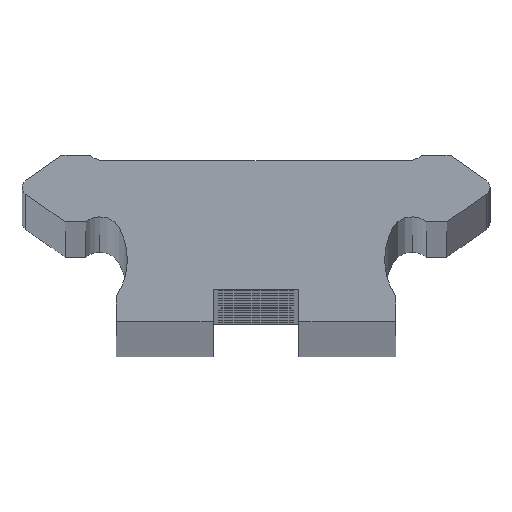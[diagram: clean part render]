
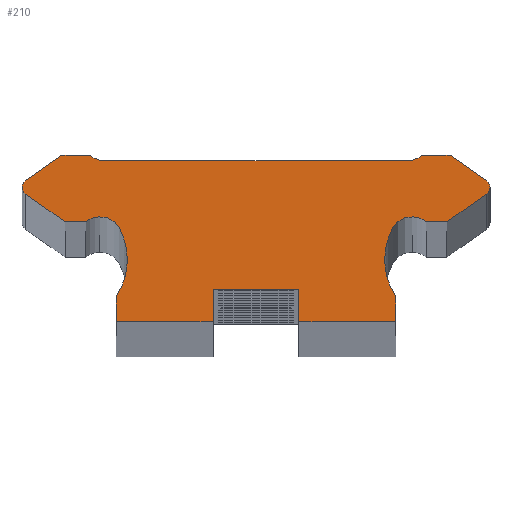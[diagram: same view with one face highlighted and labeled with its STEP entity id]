
A CAD part, top view. The second image highlights one B-rep face of the part: STEP entity #210.
In plain terms, the highlighted planar face has unit normal (0, 0, 1).
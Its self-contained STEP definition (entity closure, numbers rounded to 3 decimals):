
#210=ADVANCED_FACE('',(#546),#547,.T.);
#546=FACE_OUTER_BOUND('',#883,.T.);
#547=PLANE('',#884);
#883=EDGE_LOOP('',(#1916,#1917,#1918,#1919,#1920,#1921,#1922,#1923,#1924,#1925,#1926,#1927,#1928,#1929,#1930,#1931,#1932,#1933,#1934,#1935,#1936,#1937,#1938,#1939,#1940,#1941,#1942,#1943,#1944,#1945));
#884=AXIS2_PLACEMENT_3D('',#1946,#1947,#1948);
#1916=ORIENTED_EDGE('',*,*,#2250,.F.);
#1917=ORIENTED_EDGE('',*,*,#2322,.F.);
#1918=ORIENTED_EDGE('',*,*,#2319,.F.);
#1919=ORIENTED_EDGE('',*,*,#1985,.F.);
#1920=ORIENTED_EDGE('',*,*,#2317,.F.);
#1921=ORIENTED_EDGE('',*,*,#2314,.F.);
#1922=ORIENTED_EDGE('',*,*,#2311,.F.);
#1923=ORIENTED_EDGE('',*,*,#2308,.F.);
#1924=ORIENTED_EDGE('',*,*,#2305,.F.);
#1925=ORIENTED_EDGE('',*,*,#2302,.F.);
#1926=ORIENTED_EDGE('',*,*,#2299,.F.);
#1927=ORIENTED_EDGE('',*,*,#1987,.F.);
#1928=ORIENTED_EDGE('',*,*,#2298,.F.);
#1929=ORIENTED_EDGE('',*,*,#2294,.F.);
#1930=ORIENTED_EDGE('',*,*,#2291,.F.);
#1931=ORIENTED_EDGE('',*,*,#2288,.F.);
#1932=ORIENTED_EDGE('',*,*,#2285,.F.);
#1933=ORIENTED_EDGE('',*,*,#2282,.F.);
#1934=ORIENTED_EDGE('',*,*,#1993,.F.);
#1935=ORIENTED_EDGE('',*,*,#2280,.F.);
#1936=ORIENTED_EDGE('',*,*,#2277,.F.);
#1937=ORIENTED_EDGE('',*,*,#2274,.F.);
#1938=ORIENTED_EDGE('',*,*,#2271,.F.);
#1939=ORIENTED_EDGE('',*,*,#2268,.F.);
#1940=ORIENTED_EDGE('',*,*,#2265,.F.);
#1941=ORIENTED_EDGE('',*,*,#2262,.F.);
#1942=ORIENTED_EDGE('',*,*,#1995,.F.);
#1943=ORIENTED_EDGE('',*,*,#2261,.F.);
#1944=ORIENTED_EDGE('',*,*,#2257,.F.);
#1945=ORIENTED_EDGE('',*,*,#2254,.F.);
#1946=CARTESIAN_POINT('',(0.,8.63,1886.0));
#1947=DIRECTION('',(0.0,0.0,1.0));
#1948=DIRECTION('',(1.0,0.0,0.0));
#1985=EDGE_CURVE('',#2329,#2325,#2331,.T.);
#1987=EDGE_CURVE('',#2332,#2335,#2336,.T.);
#1993=EDGE_CURVE('',#2345,#2341,#2347,.T.);
#1995=EDGE_CURVE('',#2348,#2351,#2352,.T.);
#2250=EDGE_CURVE('',#2776,#2777,#2778,.T.);
#2254=EDGE_CURVE('',#2777,#2784,#2785,.T.);
#2257=EDGE_CURVE('',#2784,#2789,#2790,.T.);
#2261=EDGE_CURVE('',#2789,#2348,#2795,.T.);
#2262=EDGE_CURVE('',#2351,#2796,#2797,.T.);
#2265=EDGE_CURVE('',#2796,#2801,#2802,.T.);
#2268=EDGE_CURVE('',#2801,#2806,#2807,.T.);
#2271=EDGE_CURVE('',#2806,#2811,#2812,.T.);
#2274=EDGE_CURVE('',#2811,#2816,#2817,.T.);
#2277=EDGE_CURVE('',#2816,#2821,#2822,.T.);
#2280=EDGE_CURVE('',#2821,#2345,#2826,.T.);
#2282=EDGE_CURVE('',#2341,#2828,#2829,.T.);
#2285=EDGE_CURVE('',#2828,#2833,#2834,.T.);
#2288=EDGE_CURVE('',#2833,#2838,#2839,.T.);
#2291=EDGE_CURVE('',#2838,#2843,#2844,.T.);
#2294=EDGE_CURVE('',#2843,#2848,#2849,.T.);
#2298=EDGE_CURVE('',#2848,#2332,#2854,.T.);
#2299=EDGE_CURVE('',#2335,#2855,#2856,.T.);
#2302=EDGE_CURVE('',#2855,#2860,#2861,.T.);
#2305=EDGE_CURVE('',#2860,#2865,#2866,.T.);
#2308=EDGE_CURVE('',#2865,#2870,#2871,.T.);
#2311=EDGE_CURVE('',#2870,#2875,#2876,.T.);
#2314=EDGE_CURVE('',#2875,#2880,#2881,.T.);
#2317=EDGE_CURVE('',#2880,#2329,#2885,.T.);
#2319=EDGE_CURVE('',#2325,#2887,#2888,.T.);
#2322=EDGE_CURVE('',#2887,#2776,#2892,.T.);
#2325=VERTEX_POINT('',#2895);
#2329=VERTEX_POINT('',#2900);
#2331=CIRCLE('',#2903,0.76);
#2332=VERTEX_POINT('',#2904);
#2335=VERTEX_POINT('',#2908);
#2336=CIRCLE('',#2909,0.76);
#2341=VERTEX_POINT('',#2915);
#2345=VERTEX_POINT('',#2920);
#2347=CIRCLE('',#2923,6.105);
#2348=VERTEX_POINT('',#2924);
#2351=VERTEX_POINT('',#2928);
#2352=CIRCLE('',#2929,6.105);
#2776=VERTEX_POINT('',#3438);
#2777=VERTEX_POINT('',#3439);
#2778=LINE('',#3440,#3441);
#2784=VERTEX_POINT('',#3450);
#2785=CIRCLE('',#3451,2.275);
#2789=VERTEX_POINT('',#3456);
#2790=CIRCLE('',#3457,2.0);
#2795=CIRCLE('',#3463,6.105);
#2796=VERTEX_POINT('',#3464);
#2797=LINE('',#3465,#3466);
#2801=VERTEX_POINT('',#3472);
#2802=LINE('',#3473,#3474);
#2806=VERTEX_POINT('',#3480);
#2807=LINE('',#3481,#3482);
#2811=VERTEX_POINT('',#3488);
#2812=LINE('',#3489,#3490);
#2816=VERTEX_POINT('',#3496);
#2817=LINE('',#3497,#3498);
#2821=VERTEX_POINT('',#3504);
#2822=LINE('',#3505,#3506);
#2826=LINE('',#3512,#3513);
#2828=VERTEX_POINT('',#3516);
#2829=CIRCLE('',#3517,6.105);
#2833=VERTEX_POINT('',#3522);
#2834=CIRCLE('',#3523,2.0);
#2838=VERTEX_POINT('',#3528);
#2839=CIRCLE('',#3529,2.275);
#2843=VERTEX_POINT('',#3534);
#2844=LINE('',#3535,#3536);
#2848=VERTEX_POINT('',#3542);
#2849=LINE('',#3543,#3544);
#2854=CIRCLE('',#3551,0.76);
#2855=VERTEX_POINT('',#3552);
#2856=LINE('',#3553,#3554);
#2860=VERTEX_POINT('',#3560);
#2861=LINE('',#3561,#3562);
#2865=VERTEX_POINT('',#3568);
#2866=CIRCLE('',#3569,1.5);
#2870=VERTEX_POINT('',#3574);
#2871=LINE('',#3575,#3576);
#2875=VERTEX_POINT('',#3582);
#2876=CIRCLE('',#3583,1.5);
#2880=VERTEX_POINT('',#3588);
#2881=LINE('',#3589,#3590);
#2885=LINE('',#3596,#3597);
#2887=VERTEX_POINT('',#3600);
#2888=CIRCLE('',#3601,0.76);
#2892=LINE('',#3606,#3607);
#2895=CARTESIAN_POINT('',(21.805,12.5,1886.0));
#2900=CARTESIAN_POINT('',(21.481,13.123,1886.0));
#2903=AXIS2_PLACEMENT_3D('',#3615,#3616,#3617);
#2904=CARTESIAN_POINT('',(-21.805,12.5,1886.0));
#2908=CARTESIAN_POINT('',(-21.481,13.123,1886.0));
#2909=AXIS2_PLACEMENT_3D('',#3619,#3620,#3621);
#2915=CARTESIAN_POINT('',(-11.987,5.766,1886.0));
#2920=CARTESIAN_POINT('',(-13.0,2.398,1886.0));
#2923=AXIS2_PLACEMENT_3D('',#3631,#3632,#3633);
#2924=CARTESIAN_POINT('',(11.987,5.766,1886.0));
#2928=CARTESIAN_POINT('',(13.0,2.398,1886.0));
#2929=AXIS2_PLACEMENT_3D('',#3635,#3636,#3637);
#3438=CARTESIAN_POINT('',(17.771,9.28,1886.0));
#3439=CARTESIAN_POINT('',(15.883,9.28,1886.0));
#3440=CARTESIAN_POINT('',(15.883,9.28,1886.0));
#3441=VECTOR('',#4230,1.0);
#3450=CARTESIAN_POINT('',(14.573,9.754,1886.0));
#3451=AXIS2_PLACEMENT_3D('',#4234,#4235,#4236);
#3456=CARTESIAN_POINT('',(12.752,8.724,1886.0));
#3457=AXIS2_PLACEMENT_3D('',#4241,#4242,#4243);
#3463=AXIS2_PLACEMENT_3D('',#4251,#4252,#4253);
#3464=CARTESIAN_POINT('',(13.0,0.,1886.0));
#3465=CARTESIAN_POINT('',(13.0,0.,1886.0));
#3466=VECTOR('',#4254,1.0);
#3472=CARTESIAN_POINT('',(4.0,0.0,1886.0));
#3473=CARTESIAN_POINT('',(4.0,0.0,1886.0));
#3474=VECTOR('',#4257,1.0);
#3480=CARTESIAN_POINT('',(4.0,3.0,1886.0));
#3481=CARTESIAN_POINT('',(4.0,3.0,1886.0));
#3482=VECTOR('',#4260,1.0);
#3488=CARTESIAN_POINT('',(-4.0,3.0,1886.0));
#3489=CARTESIAN_POINT('',(-4.0,3.0,1886.0));
#3490=VECTOR('',#4263,1.0);
#3496=CARTESIAN_POINT('',(-4.0,0.0,1886.0));
#3497=CARTESIAN_POINT('',(-4.0,0.0,1886.0));
#3498=VECTOR('',#4266,1.0);
#3504=CARTESIAN_POINT('',(-13.0,0.,1886.0));
#3505=CARTESIAN_POINT('',(-13.0,0.,1886.0));
#3506=VECTOR('',#4269,1.0);
#3512=CARTESIAN_POINT('',(-13.0,2.398,1886.0));
#3513=VECTOR('',#4272,1.0);
#3516=CARTESIAN_POINT('',(-12.752,8.724,1886.0));
#3517=AXIS2_PLACEMENT_3D('',#4274,#4275,#4276);
#3522=CARTESIAN_POINT('',(-14.573,9.754,1886.0));
#3523=AXIS2_PLACEMENT_3D('',#4281,#4282,#4283);
#3528=CARTESIAN_POINT('',(-15.883,9.28,1886.0));
#3529=AXIS2_PLACEMENT_3D('',#4288,#4289,#4290);
#3534=CARTESIAN_POINT('',(-17.771,9.28,1886.0));
#3535=CARTESIAN_POINT('',(-17.771,9.28,1886.0));
#3536=VECTOR('',#4295,1.0);
#3542=CARTESIAN_POINT('',(-21.481,11.877,1886.0));
#3543=CARTESIAN_POINT('',(-21.481,11.877,1886.0));
#3544=VECTOR('',#4298,1.0);
#3551=AXIS2_PLACEMENT_3D('',#4304,#4305,#4306);
#3552=CARTESIAN_POINT('',(-18.086,15.5,1886.0));
#3553=CARTESIAN_POINT('',(-18.086,15.5,1886.0));
#3554=VECTOR('',#4307,1.0);
#3560=CARTESIAN_POINT('',(-15.41,15.5,1886.0));
#3561=CARTESIAN_POINT('',(-15.41,15.5,1886.0));
#3562=VECTOR('',#4310,1.0);
#3568=CARTESIAN_POINT('',(-14.292,15.0,1886.0));
#3569=AXIS2_PLACEMENT_3D('',#4313,#4314,#4315);
#3574=CARTESIAN_POINT('',(14.292,15.0,1886.0));
#3575=CARTESIAN_POINT('',(-14.292,15.0,1886.0));
#3576=VECTOR('',#4320,1.0);
#3582=CARTESIAN_POINT('',(15.41,15.5,1886.0));
#3583=AXIS2_PLACEMENT_3D('',#4323,#4324,#4325);
#3588=CARTESIAN_POINT('',(18.086,15.5,1886.0));
#3589=CARTESIAN_POINT('',(18.086,15.5,1886.0));
#3590=VECTOR('',#4330,1.0);
#3596=CARTESIAN_POINT('',(21.481,13.123,1886.0));
#3597=VECTOR('',#4333,1.0);
#3600=CARTESIAN_POINT('',(21.481,11.877,1886.0));
#3601=AXIS2_PLACEMENT_3D('',#4335,#4336,#4337);
#3606=CARTESIAN_POINT('',(17.771,9.28,1886.0));
#3607=VECTOR('',#4342,1.0);
#3615=CARTESIAN_POINT('',(21.045,12.5,1886.0));
#3616=DIRECTION('',(0.0,0.0,-1.0));
#3617=DIRECTION('',(1.0,0.0,0.0));
#3619=CARTESIAN_POINT('',(-21.045,12.5,1886.0));
#3620=DIRECTION('',(0.0,0.0,-1.0));
#3621=DIRECTION('',(1.0,0.0,0.0));
#3631=CARTESIAN_POINT('',(-18.092,5.766,1886.0));
#3632=DIRECTION('',(0.0,0.0,1.0));
#3633=DIRECTION('',(1.0,0.0,0.0));
#3635=CARTESIAN_POINT('',(18.092,5.766,1886.0));
#3636=DIRECTION('',(0.0,0.0,1.0));
#3637=DIRECTION('',(1.0,0.0,0.0));
#4230=DIRECTION('',(-1.0,-0.0,-0.0));
#4234=CARTESIAN_POINT('',(14.491,7.48,1886.0));
#4235=DIRECTION('',(0.0,0.0,1.0));
#4236=DIRECTION('',(1.0,0.0,0.0));
#4241=CARTESIAN_POINT('',(14.501,7.755,1886.0));
#4242=DIRECTION('',(0.0,0.0,1.0));
#4243=DIRECTION('',(1.0,0.0,0.0));
#4251=CARTESIAN_POINT('',(18.092,5.766,1886.0));
#4252=DIRECTION('',(0.0,0.0,1.0));
#4253=DIRECTION('',(1.0,0.0,0.0));
#4254=DIRECTION('',(-0.0,-1.0,-0.0));
#4257=DIRECTION('',(-1.0,0.,0.0));
#4260=DIRECTION('',(0.0,1.0,0.0));
#4263=DIRECTION('',(-1.0,-0.0,-0.0));
#4266=DIRECTION('',(-0.0,-1.0,-0.0));
#4269=DIRECTION('',(-1.0,0.,-0.0));
#4272=DIRECTION('',(0.0,1.0,0.0));
#4274=CARTESIAN_POINT('',(-18.092,5.766,1886.0));
#4275=DIRECTION('',(0.0,0.0,1.0));
#4276=DIRECTION('',(1.0,0.0,0.0));
#4281=CARTESIAN_POINT('',(-14.501,7.755,1886.0));
#4282=DIRECTION('',(0.0,0.0,1.0));
#4283=DIRECTION('',(1.0,0.0,0.0));
#4288=CARTESIAN_POINT('',(-14.491,7.48,1886.0));
#4289=DIRECTION('',(0.0,0.0,1.0));
#4290=DIRECTION('',(1.0,0.0,0.0));
#4295=DIRECTION('',(-1.0,-0.0,-0.0));
#4298=DIRECTION('',(-0.819,0.574,0.0));
#4304=CARTESIAN_POINT('',(-21.045,12.5,1886.0));
#4305=DIRECTION('',(0.0,0.0,-1.0));
#4306=DIRECTION('',(1.0,0.0,0.0));
#4307=DIRECTION('',(0.819,0.574,0.0));
#4310=DIRECTION('',(1.0,0.0,0.0));
#4313=CARTESIAN_POINT('',(-14.292,16.5,1886.0));
#4314=DIRECTION('',(0.0,0.0,1.0));
#4315=DIRECTION('',(1.0,0.0,0.0));
#4320=DIRECTION('',(1.0,0.0,0.0));
#4323=CARTESIAN_POINT('',(14.292,16.5,1886.0));
#4324=DIRECTION('',(0.0,0.0,1.0));
#4325=DIRECTION('',(1.0,0.0,0.0));
#4330=DIRECTION('',(1.0,0.0,0.0));
#4333=DIRECTION('',(0.819,-0.574,0.0));
#4335=CARTESIAN_POINT('',(21.045,12.5,1886.0));
#4336=DIRECTION('',(0.0,0.0,-1.0));
#4337=DIRECTION('',(1.0,0.0,0.0));
#4342=DIRECTION('',(-0.819,-0.574,-0.0));
